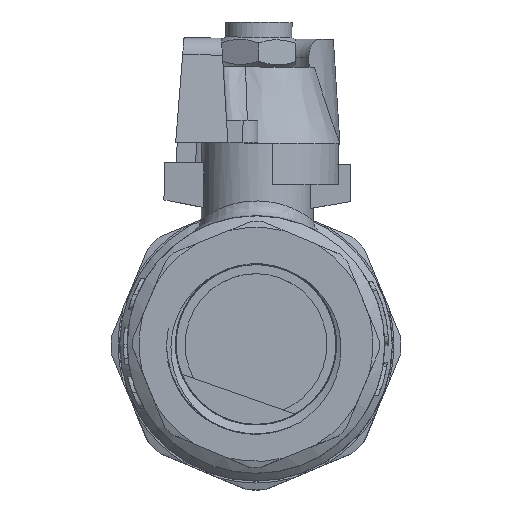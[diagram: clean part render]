
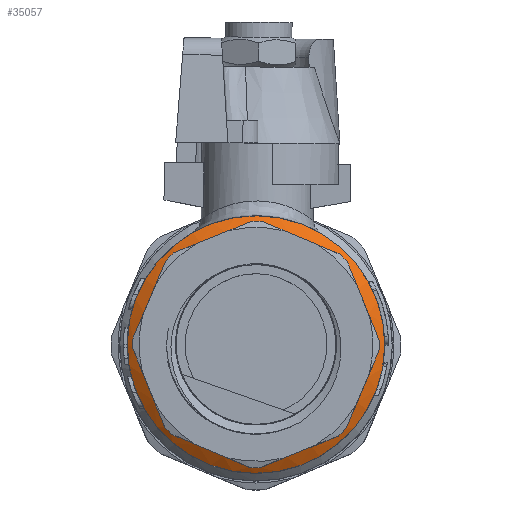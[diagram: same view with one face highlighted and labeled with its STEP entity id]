
A CAD part, top view. The second image highlights one B-rep face of the part: STEP entity #35057.
In plain terms, the highlighted conical face has half-angle 57 degrees and reference radius 16.249 mm.
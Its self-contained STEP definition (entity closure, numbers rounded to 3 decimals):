
#120=(
BOUNDED_CURVE()
B_SPLINE_CURVE(2,(#64832,#64833,#64834),.UNSPECIFIED.,.F.,.F.)
B_SPLINE_CURVE_WITH_KNOTS((3,3),(0.18,1.351),
 .UNSPECIFIED.)
CURVE()
GEOMETRIC_REPRESENTATION_ITEM()
RATIONAL_B_SPLINE_CURVE((1.023,1.089,1.023))
REPRESENTATION_ITEM('')
);
#121=(
BOUNDED_CURVE()
B_SPLINE_CURVE(2,(#64840,#64841,#64842),.UNSPECIFIED.,.F.,.F.)
B_SPLINE_CURVE_WITH_KNOTS((3,3),(0.18,1.351),
 .UNSPECIFIED.)
CURVE()
GEOMETRIC_REPRESENTATION_ITEM()
RATIONAL_B_SPLINE_CURVE((1.023,1.089,1.023))
REPRESENTATION_ITEM('')
);
#122=(
BOUNDED_CURVE()
B_SPLINE_CURVE(2,(#64872,#64873,#64874),.UNSPECIFIED.,.F.,.F.)
B_SPLINE_CURVE_WITH_KNOTS((3,3),(0.18,1.351),
 .UNSPECIFIED.)
CURVE()
GEOMETRIC_REPRESENTATION_ITEM()
RATIONAL_B_SPLINE_CURVE((1.023,1.089,1.023))
REPRESENTATION_ITEM('')
);
#123=(
BOUNDED_CURVE()
B_SPLINE_CURVE(2,(#64883,#64884,#64885),.UNSPECIFIED.,.F.,.F.)
B_SPLINE_CURVE_WITH_KNOTS((3,3),(0.18,1.351),
 .UNSPECIFIED.)
CURVE()
GEOMETRIC_REPRESENTATION_ITEM()
RATIONAL_B_SPLINE_CURVE((1.023,1.089,1.023))
REPRESENTATION_ITEM('')
);
#124=(
BOUNDED_CURVE()
B_SPLINE_CURVE(2,(#64886,#64887,#64888),.UNSPECIFIED.,.F.,.F.)
B_SPLINE_CURVE_WITH_KNOTS((3,3),(0.18,1.351),
 .UNSPECIFIED.)
CURVE()
GEOMETRIC_REPRESENTATION_ITEM()
RATIONAL_B_SPLINE_CURVE((1.023,1.089,1.023))
REPRESENTATION_ITEM('')
);
#125=(
BOUNDED_CURVE()
B_SPLINE_CURVE(2,(#64889,#64890,#64891),.UNSPECIFIED.,.F.,.F.)
B_SPLINE_CURVE_WITH_KNOTS((3,3),(0.18,1.351),
 .UNSPECIFIED.)
CURVE()
GEOMETRIC_REPRESENTATION_ITEM()
RATIONAL_B_SPLINE_CURVE((1.023,1.089,1.023))
REPRESENTATION_ITEM('')
);
#126=(
BOUNDED_CURVE()
B_SPLINE_CURVE(2,(#64892,#64893,#64894),.UNSPECIFIED.,.F.,.F.)
B_SPLINE_CURVE_WITH_KNOTS((3,3),(0.18,1.351),
 .UNSPECIFIED.)
CURVE()
GEOMETRIC_REPRESENTATION_ITEM()
RATIONAL_B_SPLINE_CURVE((1.023,1.089,1.023))
REPRESENTATION_ITEM('')
);
#127=(
BOUNDED_CURVE()
B_SPLINE_CURVE(2,(#64896,#64897,#64898),.UNSPECIFIED.,.F.,.F.)
B_SPLINE_CURVE_WITH_KNOTS((3,3),(0.18,1.351),
 .UNSPECIFIED.)
CURVE()
GEOMETRIC_REPRESENTATION_ITEM()
RATIONAL_B_SPLINE_CURVE((1.023,1.089,1.023))
REPRESENTATION_ITEM('')
);
#339=CONICAL_SURFACE('',#37439,16.249,0.995);
#2423=CIRCLE('',#37077,17.25);
#2424=CIRCLE('',#37078,17.25);
#2551=CIRCLE('',#37431,16.5);
#2552=CIRCLE('',#37433,16.5);
#2553=CIRCLE('',#37435,16.5);
#2554=CIRCLE('',#37437,16.5);
#2555=CIRCLE('',#37440,16.5);
#2556=CIRCLE('',#37441,16.5);
#2557=CIRCLE('',#37442,16.5);
#2558=CIRCLE('',#37443,16.5);
#2559=CIRCLE('',#37444,16.5);
#3555=FACE_OUTER_BOUND('',#5594,.T.);
#5594=EDGE_LOOP('',(#26189,#26190,#26191,#26192,#26193,#26194,#26195,#26196,
#26197,#26198,#26199,#26200,#26201,#26202,#26203,#26204,#26205,#26206,#26207,
#26208,#26209));
#10520=LINE('',#64878,#12382);
#12382=VECTOR('',#41309,16.249);
#14168=VERTEX_POINT('',#52222);
#14169=VERTEX_POINT('',#52223);
#14589=VERTEX_POINT('',#64829);
#14590=VERTEX_POINT('',#64831);
#14591=VERTEX_POINT('',#64837);
#14592=VERTEX_POINT('',#64839);
#14593=VERTEX_POINT('',#64845);
#14594=VERTEX_POINT('',#64847);
#14595=VERTEX_POINT('',#64851);
#14596=VERTEX_POINT('',#64853);
#14597=VERTEX_POINT('',#64857);
#14598=VERTEX_POINT('',#64859);
#14599=VERTEX_POINT('',#64863);
#14600=VERTEX_POINT('',#64865);
#14601=VERTEX_POINT('',#64869);
#14602=VERTEX_POINT('',#64871);
#14603=VERTEX_POINT('',#64877);
#14604=VERTEX_POINT('',#64881);
#14605=VERTEX_POINT('',#64895);
#18226=EDGE_CURVE('',#14168,#14169,#2423,.T.);
#18227=EDGE_CURVE('',#14169,#14168,#2424,.T.);
#18909=EDGE_CURVE('',#14589,#14590,#120,.T.);
#18912=EDGE_CURVE('',#14591,#14592,#121,.T.);
#18915=EDGE_CURVE('',#14593,#14594,#2551,.T.);
#18918=EDGE_CURVE('',#14595,#14596,#2552,.T.);
#18921=EDGE_CURVE('',#14597,#14598,#2553,.T.);
#18924=EDGE_CURVE('',#14599,#14600,#2554,.T.);
#18927=EDGE_CURVE('',#14601,#14602,#122,.T.);
#18929=EDGE_CURVE('',#14169,#14603,#10520,.T.);
#18930=EDGE_CURVE('',#14592,#14603,#2555,.T.);
#18931=EDGE_CURVE('',#14590,#14591,#2556,.T.);
#18932=EDGE_CURVE('',#14604,#14589,#2557,.T.);
#18933=EDGE_CURVE('',#14594,#14604,#123,.T.);
#18934=EDGE_CURVE('',#14596,#14593,#124,.T.);
#18935=EDGE_CURVE('',#14598,#14595,#125,.T.);
#18936=EDGE_CURVE('',#14600,#14597,#126,.T.);
#18937=EDGE_CURVE('',#14605,#14599,#127,.T.);
#18938=EDGE_CURVE('',#14602,#14605,#2558,.T.);
#18939=EDGE_CURVE('',#14603,#14601,#2559,.T.);
#26189=ORIENTED_EDGE('',*,*,#18226,.T.);
#26190=ORIENTED_EDGE('',*,*,#18929,.T.);
#26191=ORIENTED_EDGE('',*,*,#18930,.F.);
#26192=ORIENTED_EDGE('',*,*,#18912,.F.);
#26193=ORIENTED_EDGE('',*,*,#18931,.F.);
#26194=ORIENTED_EDGE('',*,*,#18909,.F.);
#26195=ORIENTED_EDGE('',*,*,#18932,.F.);
#26196=ORIENTED_EDGE('',*,*,#18933,.F.);
#26197=ORIENTED_EDGE('',*,*,#18915,.F.);
#26198=ORIENTED_EDGE('',*,*,#18934,.F.);
#26199=ORIENTED_EDGE('',*,*,#18918,.F.);
#26200=ORIENTED_EDGE('',*,*,#18935,.F.);
#26201=ORIENTED_EDGE('',*,*,#18921,.F.);
#26202=ORIENTED_EDGE('',*,*,#18936,.F.);
#26203=ORIENTED_EDGE('',*,*,#18924,.F.);
#26204=ORIENTED_EDGE('',*,*,#18937,.F.);
#26205=ORIENTED_EDGE('',*,*,#18938,.F.);
#26206=ORIENTED_EDGE('',*,*,#18927,.F.);
#26207=ORIENTED_EDGE('',*,*,#18939,.F.);
#26208=ORIENTED_EDGE('',*,*,#18929,.F.);
#26209=ORIENTED_EDGE('',*,*,#18227,.T.);
#35057=ADVANCED_FACE('',(#3555),#339,.T.);
#37077=AXIS2_PLACEMENT_3D('',#52224,#40254,#40255);
#37078=AXIS2_PLACEMENT_3D('',#52225,#40256,#40257);
#37431=AXIS2_PLACEMENT_3D('',#64848,#41282,#41283);
#37433=AXIS2_PLACEMENT_3D('',#64854,#41288,#41289);
#37435=AXIS2_PLACEMENT_3D('',#64860,#41294,#41295);
#37437=AXIS2_PLACEMENT_3D('',#64866,#41300,#41301);
#37439=AXIS2_PLACEMENT_3D('',#64876,#41307,#41308);
#37440=AXIS2_PLACEMENT_3D('',#64879,#41310,#41311);
#37441=AXIS2_PLACEMENT_3D('',#64880,#41312,#41313);
#37442=AXIS2_PLACEMENT_3D('',#64882,#41314,#41315);
#37443=AXIS2_PLACEMENT_3D('',#64899,#41316,#41317);
#37444=AXIS2_PLACEMENT_3D('',#64900,#41318,#41319);
#40254=DIRECTION('center_axis',(0.,0.,1.));
#40255=DIRECTION('ref_axis',(-1.,0.,0.));
#40256=DIRECTION('center_axis',(0.,0.,1.));
#40257=DIRECTION('ref_axis',(-1.,0.,0.));
#41282=DIRECTION('center_axis',(0.,0.,1.));
#41283=DIRECTION('ref_axis',(1.,0.,0.));
#41288=DIRECTION('center_axis',(0.,0.,1.));
#41289=DIRECTION('ref_axis',(1.,0.,0.));
#41294=DIRECTION('center_axis',(0.,0.,1.));
#41295=DIRECTION('ref_axis',(1.,0.,0.));
#41300=DIRECTION('center_axis',(0.,0.,1.));
#41301=DIRECTION('ref_axis',(1.,0.,0.));
#41307=DIRECTION('center_axis',(0.,0.,-1.));
#41308=DIRECTION('ref_axis',(-1.,0.,0.));
#41309=DIRECTION('',(-0.839,0.,0.545));
#41310=DIRECTION('center_axis',(0.,0.,1.));
#41311=DIRECTION('ref_axis',(1.,0.,0.));
#41312=DIRECTION('center_axis',(0.,0.,1.));
#41313=DIRECTION('ref_axis',(1.,0.,0.));
#41314=DIRECTION('center_axis',(0.,0.,1.));
#41315=DIRECTION('ref_axis',(1.,0.,0.));
#41316=DIRECTION('center_axis',(0.,0.,1.));
#41317=DIRECTION('ref_axis',(1.,0.,0.));
#41318=DIRECTION('center_axis',(0.,0.,1.));
#41319=DIRECTION('ref_axis',(1.,0.,0.));
#52222=CARTESIAN_POINT('',(-17.25,0.,29.2));
#52223=CARTESIAN_POINT('',(17.25,0.,29.2));
#52224=CARTESIAN_POINT('Origin',(0.,0.,29.2));
#52225=CARTESIAN_POINT('Origin',(0.,0.,29.2));
#64829=CARTESIAN_POINT('',(0.705,-16.485,29.687));
#64831=CARTESIAN_POINT('',(11.158,-12.155,29.687));
#64832=CARTESIAN_POINT('Ctrl Pts',(0.705,-16.485,
29.687));
#64833=CARTESIAN_POINT('Ctrl Pts',(5.932,-14.32,30.947));
#64834=CARTESIAN_POINT('Ctrl Pts',(11.158,-12.155,29.687));
#64837=CARTESIAN_POINT('',(12.155,-11.158,29.687));
#64839=CARTESIAN_POINT('',(16.485,-0.705,29.687));
#64840=CARTESIAN_POINT('Ctrl Pts',(12.155,-11.158,29.687));
#64841=CARTESIAN_POINT('Ctrl Pts',(14.32,-5.932,30.947));
#64842=CARTESIAN_POINT('Ctrl Pts',(16.485,-0.705,
29.687));
#64845=CARTESIAN_POINT('',(-12.155,-11.158,29.687));
#64847=CARTESIAN_POINT('',(-11.158,-12.155,29.687));
#64848=CARTESIAN_POINT('Origin',(0.,0.,29.687));
#64851=CARTESIAN_POINT('',(-16.485,0.705,29.687));
#64853=CARTESIAN_POINT('',(-16.485,-0.705,29.687));
#64854=CARTESIAN_POINT('Origin',(0.,0.,29.687));
#64857=CARTESIAN_POINT('',(-11.158,12.155,29.687));
#64859=CARTESIAN_POINT('',(-12.155,11.158,29.687));
#64860=CARTESIAN_POINT('Origin',(0.,0.,29.687));
#64863=CARTESIAN_POINT('',(0.705,16.485,29.687));
#64865=CARTESIAN_POINT('',(-0.705,16.485,29.687));
#64866=CARTESIAN_POINT('Origin',(0.,0.,29.687));
#64869=CARTESIAN_POINT('',(16.485,0.705,29.687));
#64871=CARTESIAN_POINT('',(12.155,11.158,29.687));
#64872=CARTESIAN_POINT('Ctrl Pts',(16.485,0.705,29.687));
#64873=CARTESIAN_POINT('Ctrl Pts',(14.32,5.932,30.947));
#64874=CARTESIAN_POINT('Ctrl Pts',(12.155,11.158,29.687));
#64876=CARTESIAN_POINT('Origin',(0.,0.,29.85));
#64877=CARTESIAN_POINT('',(16.5,0.,29.687));
#64878=CARTESIAN_POINT('',(16.249,0.,29.85));
#64879=CARTESIAN_POINT('Origin',(0.,0.,29.687));
#64880=CARTESIAN_POINT('Origin',(0.,0.,29.687));
#64881=CARTESIAN_POINT('',(-0.705,-16.485,29.687));
#64882=CARTESIAN_POINT('Origin',(0.,0.,29.687));
#64883=CARTESIAN_POINT('Ctrl Pts',(-11.158,-12.155,
29.687));
#64884=CARTESIAN_POINT('Ctrl Pts',(-5.932,-14.32,
30.947));
#64885=CARTESIAN_POINT('Ctrl Pts',(-0.705,-16.485,
29.687));
#64886=CARTESIAN_POINT('Ctrl Pts',(-16.485,-0.705,
29.687));
#64887=CARTESIAN_POINT('Ctrl Pts',(-14.32,-5.932,
30.947));
#64888=CARTESIAN_POINT('Ctrl Pts',(-12.155,-11.158,
29.687));
#64889=CARTESIAN_POINT('Ctrl Pts',(-12.155,11.158,29.687));
#64890=CARTESIAN_POINT('Ctrl Pts',(-14.32,5.932,30.947));
#64891=CARTESIAN_POINT('Ctrl Pts',(-16.485,0.705,
29.687));
#64892=CARTESIAN_POINT('Ctrl Pts',(-0.705,16.485,
29.687));
#64893=CARTESIAN_POINT('Ctrl Pts',(-5.932,14.32,30.947));
#64894=CARTESIAN_POINT('Ctrl Pts',(-11.158,12.155,29.687));
#64895=CARTESIAN_POINT('',(11.158,12.155,29.687));
#64896=CARTESIAN_POINT('Ctrl Pts',(11.158,12.155,29.687));
#64897=CARTESIAN_POINT('Ctrl Pts',(5.932,14.32,30.947));
#64898=CARTESIAN_POINT('Ctrl Pts',(0.705,16.485,29.687));
#64899=CARTESIAN_POINT('Origin',(0.,0.,29.687));
#64900=CARTESIAN_POINT('Origin',(0.,0.,29.687));
